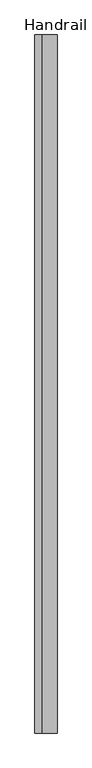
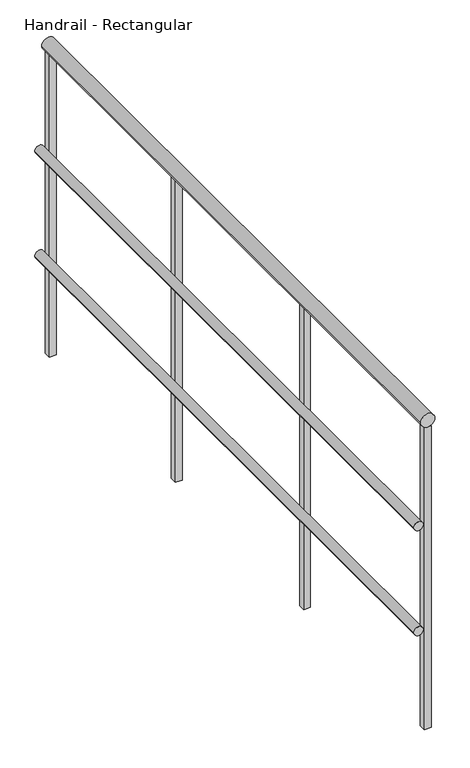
"""IFC4 building model written with IfcOpenShell, lengths in millimetres: railing geometry, Handrail - Rectangular."""

from ifc_helpers import new_model, si_unit, point, frame, frame_2d, origin, place, context, project, spatial, polyline, circle_curve, trimmed, segment, composite_curve, outline, extrude, source, transform, mapped, element, save


def handrail_rectangular_a6494b9e(model_context):
    return source(origin(), model_context, "Body", "SweptSolid", [
        extrude(outline(composite_curve([segment(trimmed(circle_curve(frame_2d((3644.9, -32192.8839563)), 12.7), [point((3644.9, -32205.5839563))], [point((3644.9, -32180.1839563))], False, "CARTESIAN"), True, "CONTINUOUS"), segment(trimmed(circle_curve(frame_2d((3644.9, -32192.8839563)), 12.7), [point((3644.9, -32180.1839563))], [point((3644.9, -32205.5839563))], False, "CARTESIAN"), True, "CONTINUOUS")], self_intersect=False)), frame((0.0, 8414.2316867, 0.0), z_axis=(0.0, 1.0, 0.0), x_axis=(0.0, 0.0, 1.0)), (0.0, 0.0, 1.0), 1803.4),
        extrude(outline(composite_curve([segment(trimmed(circle_curve(frame_2d((3340.1, -32192.8839563)), 12.7), [point((3340.1, -32205.5839563))], [point((3340.1, -32180.1839563))], False, "CARTESIAN"), True, "CONTINUOUS"), segment(trimmed(circle_curve(frame_2d((3340.1, -32192.8839563)), 12.7), [point((3340.1, -32180.1839563))], [point((3340.1, -32205.5839563))], False, "CARTESIAN"), True, "CONTINUOUS")], self_intersect=False)), frame((0.0, 8414.2316867, 0.0), z_axis=(0.0, 1.0, 0.0), x_axis=(0.0, 0.0, 1.0)), (0.0, 0.0, 1.0), 1803.4),
        extrude(outline(composite_curve([segment(trimmed(circle_curve(frame_2d((3943.35, -32167.4839563)), 19.05), [point((3943.35, -32186.5339563))], [point((3943.35, -32148.4339563))], False, "CARTESIAN"), True, "CONTINUOUS"), segment(trimmed(circle_curve(frame_2d((3943.35, -32167.4839563)), 19.05), [point((3943.35, -32148.4339563))], [point((3943.35, -32186.5339563))], False, "CARTESIAN"), True, "CONTINUOUS")], self_intersect=False)), frame((0.0, 8414.2316867, 0.0), z_axis=(0.0, 1.0, 0.0), x_axis=(0.0, 0.0, 1.0)), (0.0, 0.0, 1.0), 1803.4),
        extrude(outline(polyline([(-32157.9589563, 9007.9566867), (-32157.9589563, 8988.9066867), (-32177.0089563, 8988.9066867), (-32177.0089563, 9007.9566867), (-32157.9589563, 9007.9566867)])), frame((0.0, 0.0, 3048.0), z_axis=(0.0, 0.0, 1.0), x_axis=(1.0, 0.0, 0.0)), (0.0, 0.0, 1.0), 876.3),
        extrude(outline(polyline([(-32157.9589563, 9617.5566867), (-32157.9589563, 9598.5066867), (-32177.0089563, 9598.5066867), (-32177.0089563, 9617.5566867), (-32157.9589563, 9617.5566867)])), frame((0.0, 0.0, 3048.0), z_axis=(0.0, 0.0, 1.0), x_axis=(1.0, 0.0, 0.0)), (0.0, 0.0, 1.0), 876.3),
        extrude(outline(polyline([(-32157.9589563, 8433.2816867), (-32157.9589563, 8414.2316867), (-32177.0089563, 8414.2316867), (-32177.0089563, 8433.2816867), (-32157.9589563, 8433.2816867)])), frame((0.0, 0.0, 3048.0), z_axis=(0.0, 0.0, 1.0), x_axis=(1.0, 0.0, 0.0)), (0.0, 0.0, 1.0), 876.3),
        extrude(outline(polyline([(-32157.9589563, 10217.6316867), (-32157.9589563, 10198.5816867), (-32177.0089563, 10198.5816867), (-32177.0089563, 10217.6316867), (-32157.9589563, 10217.6316867)])), frame((0.0, 0.0, 3048.0), z_axis=(0.0, 0.0, 1.0), x_axis=(1.0, 0.0, 0.0)), (0.0, 0.0, 1.0), 876.3),
    ])


if __name__ == "__main__":
    model = new_model("IFC4")
    model_context = context("Model", 3, world=origin())
    ifc_project = project(units=[si_unit("LENGTHUNIT", "METRE", prefix="MILLI")], contexts=[model_context])
    site = spatial("IfcSite", under=ifc_project)
    building = spatial("IfcBuilding", under=site)
    placement = place(None, origin())
    handrail_rectangular_shape = handrail_rectangular_a6494b9e(model_context)
    element("IfcRailing", 1, ObjectType="Handrail - Rectangular", at=placement, inside=building, context=model_context, shape_type="MappedRepresentation", body=[
        mapped(handrail_rectangular_shape, transform((0.0, 0.0, 0.0), x_axis=(1.0, 0.0, 0.0), y_axis=(0.0, 1.0, 0.0), z_axis=(0.0, 0.0, 1.0))),
    ])
    save(model, "model.ifc")
